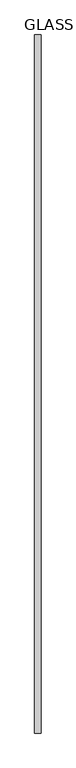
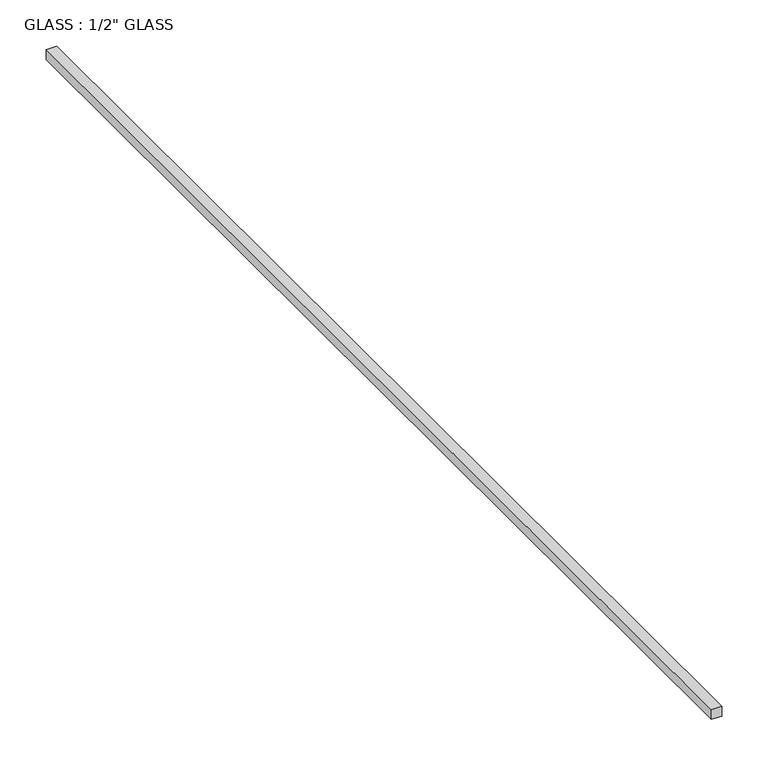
"""IFC4 building model written with IfcOpenShell, lengths in millimetres: proxy geometry."""

from ifc_helpers import new_model, si_unit, frame, origin, place, context, project, spatial, polyline, outline, extrude, source, transform, mapped, element, save


def proxy_a881e6c5(model_context):
    return source(origin(), model_context, "Body", "SweptSolid", [
        extrude(outline(polyline([(-6.35, 0.0), (6.35, 0.0), (6.35, -1430.0418065), (-6.35, -1430.0418065), (-6.35, 0.0)])), frame((0.0, 0.0, -6.35), z_axis=(0.0, 0.0, 1.0), x_axis=(1.0, 0.0, 0.0)), (0.0, 0.0, 1.0), 12.7),
    ])


if __name__ == "__main__":
    model = new_model("IFC4")
    model_context = context("Model", 3, world=origin())
    ifc_project = project(units=[si_unit("LENGTHUNIT", "METRE", prefix="MILLI")], contexts=[model_context])
    site = spatial("IfcSite", under=ifc_project)
    building = spatial("IfcBuilding", under=site)
    placement = place(None, origin())
    proxy_shape = proxy_a881e6c5(model_context)
    element("IfcBuildingElementProxy", 1, Name="GLASS : 1/2\" GLASS", ObjectType="GLASS : 1/2\" GLASS", at=placement, inside=building, context=model_context, shape_type="MappedRepresentation", body=[
        mapped(proxy_shape, transform((0.0, 0.0, 0.0), x_axis=(1.0, 0.0, 0.0), y_axis=(0.0, 1.0, 0.0), z_axis=(0.0, 0.0, 1.0))),
    ])
    save(model, "model.ifc")
